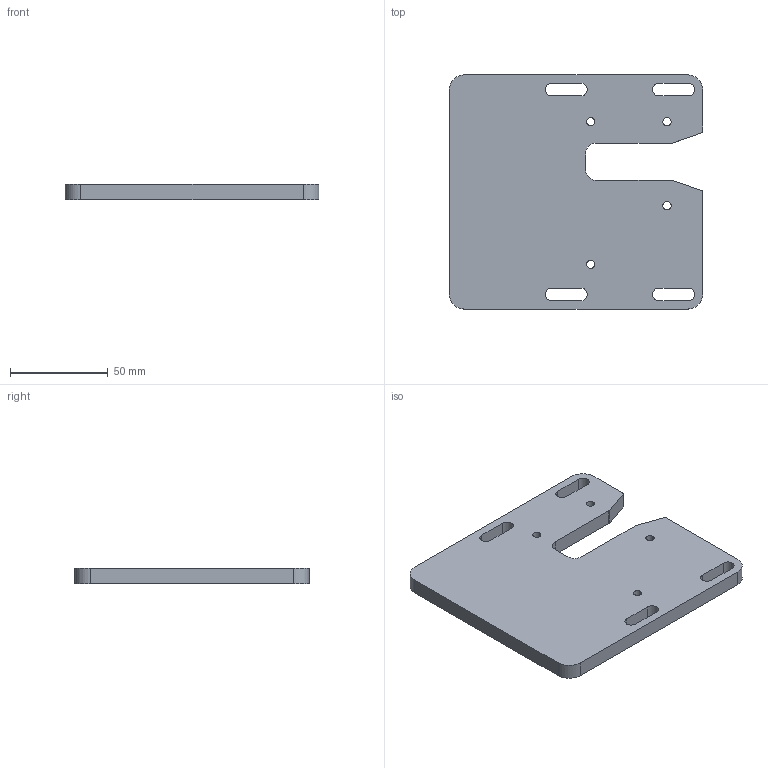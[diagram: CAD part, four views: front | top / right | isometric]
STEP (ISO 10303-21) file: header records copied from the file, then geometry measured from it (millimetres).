
FILE_DESCRIPTION (( 'STEP AP214' ), '1' );
FILE_NAME ('09344.STEP', '2021-08-12T06:16:24', ( '' ), ( '' ), 'SwSTEP 2.0', 'SolidWorks 2016', '' );
FILE_SCHEMA (( 'AUTOMOTIVE_DESIGN' ));
Length unit declared in the file: millimetre
Products named in the file (1): 09344
Bounding box: 130 x 120 x 8 mm (x, y, z)
Volume: 109996.8 mm3; surface area: 34274.3 mm2
Topology: 1 solids, 1 shells, 50 faces, 144 edges, 96 vertices
Faces by surface type: cylinder 30, plane 20
Entity records: 1822 total; most frequent: DIRECTION 306, CARTESIAN_POINT 291, ORIENTED_EDGE 288, EDGE_CURVE 144, AXIS2_PLACEMENT_3D 111, VERTEX_POINT 96, VECTOR 84, LINE 84
